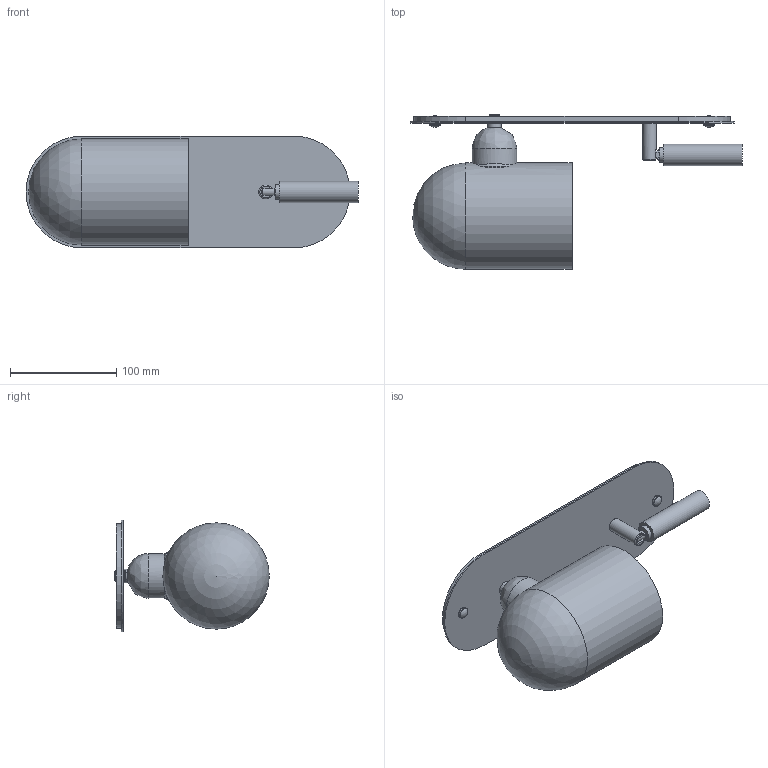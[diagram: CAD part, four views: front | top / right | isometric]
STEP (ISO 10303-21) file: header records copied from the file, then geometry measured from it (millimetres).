
FILE_DESCRIPTION(/* description */ (''),/* implementation_level */ '2;1');
FILE_NAME(/* name */ '260519_B_B763.stp',/* time_stamp */ '2026-05-19T08:52:12+02:00',/* author */ ('Dominik'),/* organization */ (''),/* preprocessor_version */ 'ST-DEVELOPER v20.1',/* originating_system */ 'Autodesk Inventor 2027',/* authorisation */ '');
FILE_SCHEMA (('AUTOMOTIVE_DESIGN { 1 0 10303 214 3 1 1 }'));
Length unit declared in the file: millimetre
Products named in the file (1): B763 jako część
Bounding box: 312.5 x 145.35 x 105 mm (x, y, z)
Volume: 1296677.1 mm3; surface area: 130566.9 mm2
Topology: 1 solids, 3 shells, 908 faces, 2320 edges, 1318 vertices
Faces by surface type: plane 753, cylinder 143, bspline 5, cone 3, sphere 3, torus 1
Full cylindrical faces by diameter (mm): 9 x1, 10 x1, 13 x2, 14 x1, 20 x1, 42 x1, 100 x1
Entity records: 28404 total; most frequent: CARTESIAN_POINT 5546, ORIENTED_EDGE 4622, DIRECTION 4407, EDGE_CURVE 2311, LINE 1991, VECTOR 1991, VERTEX_POINT 1300, AXIS2_PLACEMENT_3D 1208
